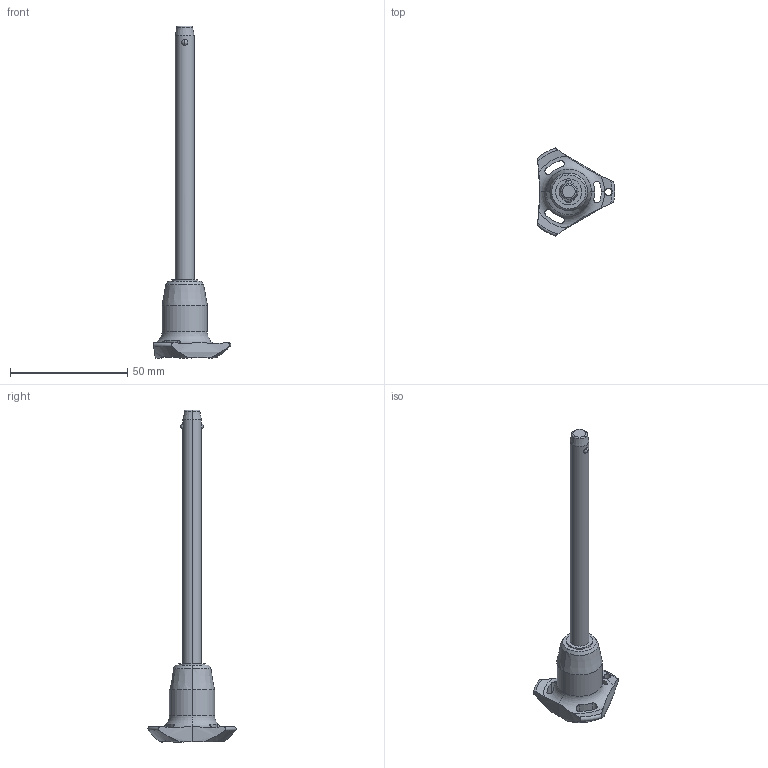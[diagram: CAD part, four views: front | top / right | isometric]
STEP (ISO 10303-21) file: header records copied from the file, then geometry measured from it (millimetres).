
FILE_DESCRIPTION (( 'STEP AP203' ), '1' );
FILE_NAME ('QR1704.M08-100-S.step', '2025-11-12T09:17:40', ( '' ), ( '' ), 'SwSTEP 2.0', 'SolidWorks 2019', '' );
FILE_SCHEMA (( 'CONFIG_CONTROL_DESIGN' ));
Length unit declared in the file: millimetre
Products named in the file (1): QR1704.M08-100-S
Bounding box: 33 x 37.51 x 141.5 mm (x, y, z)
Volume: 15676.8 mm3; surface area: 6567.9 mm2
Topology: 1 solids, 1 shells, 65 faces, 174 edges, 109 vertices
Faces by surface type: cylinder 30, cone 14, torus 11, sphere 6, plane 4
Entity records: 2746 total; most frequent: CARTESIAN_POINT 1073, ORIENTED_EDGE 348, DIRECTION 331, EDGE_CURVE 174, AXIS2_PLACEMENT_3D 147, VERTEX_POINT 109, CIRCLE 81, EDGE_LOOP 71
